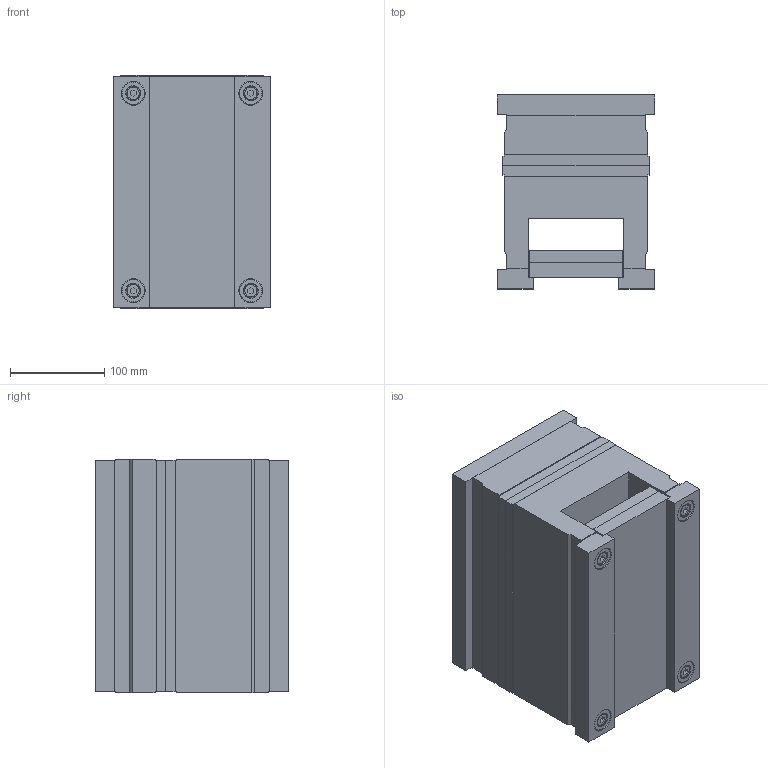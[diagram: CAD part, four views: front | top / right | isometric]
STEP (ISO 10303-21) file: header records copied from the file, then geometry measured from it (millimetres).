
FILE_DESCRIPTION (( 'STEP AP214' ), '1' );
FILE_NAME ('1563.STEP', '2002-07-10T07:50:04', ( 'Simcha Kilim' ), ( 'K. Plastics Engineering' ), 'SwSTEP 2.0', 'SolidWorks 2002025', '' );
FILE_SCHEMA (( 'AUTOMOTIVE_DESIGN' ));
Length unit declared in the file: millimetre
Products named in the file (12): 1563; ALMO (hot half)_1563; ALMO (ejector return plate)_1563; ALMO (ejector plate)_1563; ALMO (key plate)_Ø14; ALMO (guide bush)_Ø14; ALMO (guide bush)_Ø15; ALMO (guide pin)_Ø15; ALMO (ejector half)_1563; ALMO (screw)_M8x50; ALMO (screw)_M8x90; ALMO (guide pin)_Ø14
Assembly tree (28 placements, depth 2):
  1563
    ALMO (guide bush)_Ø15
    ALMO (guide pin)_Ø15
    ALMO (hot half)_1563
    ALMO (guide bush)_Ø14  x3
    ALMO (key plate)_Ø14  x8
    ALMO (screw)_M8x90  x4
    ALMO (screw)_M8x50  x4
    ALMO (guide pin)_Ø14  x3
    ALMO (ejector return plate)_1563
    ALMO (ejector half)_1563
    ALMO (ejector plate)_1563
Bounding box: 167 x 206 x 248 mm (x, y, z)
Volume: 6668175.5 mm3; surface area: 598736.5 mm2
Topology: 28 solids, 28 shells, 706 faces, 1496 edges, 924 vertices
Faces by surface type: cylinder 260, plane 254, cone 192
Entity records: 10477 total; most frequent: DIRECTION 1914, CARTESIAN_POINT 1683, ORIENTED_EDGE 1584, EDGE_CURVE 792, AXIS2_PLACEMENT_3D 729, VERTEX_POINT 498, LINE 456, VECTOR 456
